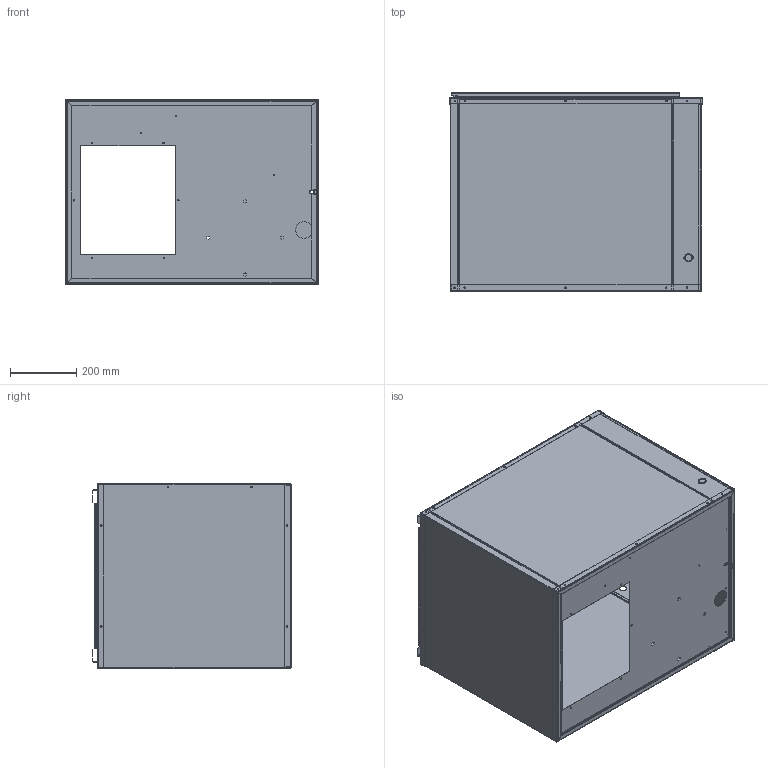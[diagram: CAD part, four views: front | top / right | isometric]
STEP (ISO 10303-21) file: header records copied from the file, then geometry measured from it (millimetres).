
FILE_DESCRIPTION (( 'STEP AP214' ), '1' );
FILE_NAME ('GTC48S2.STEP', '2016-07-14T12:58:46', ( 'BMC' ), ( 'Bard Manufacturing Co., Inc.' ), 'SwSTEP 2.0', 'SolidWorks 2016', '' );
FILE_SCHEMA (( 'AUTOMOTIVE_DESIGN' ));
Length unit declared in the file: inch
Products named in the file (12): 106-284; 148-112; 108-242; 100-591; 148-113; 114-179; 152-475; 126-387; GTC48S2; 102-480; Mirror140-354; 140-354
Assembly tree (12 placements, depth 2):
  GTC48S2
    126-387
    152-475
    114-179
    148-113
    100-591  x2
    108-242
    148-112
    106-284
    140-354
    Mirror140-354
    102-480
Bounding box: 765.4 x 601.36 x 561.04 mm (x, y, z)
Surface area: 5022438.4 mm2 (no closed solid volume)
Topology: 0 solids, 12 shells, 697 faces, 1855 edges, 1184 vertices
Faces by surface type: cylinder 339, plane 294, bspline 64
Entity records: 32063 total; most frequent: CARTESIAN_POINT 6027, DIRECTION 3553, ORIENTED_EDGE 3518, EDGE_CURVE 1759, AXIS2_PLACEMENT_3D 1272, VERTEX_POINT 1124, LINE 1009, VECTOR 1009
